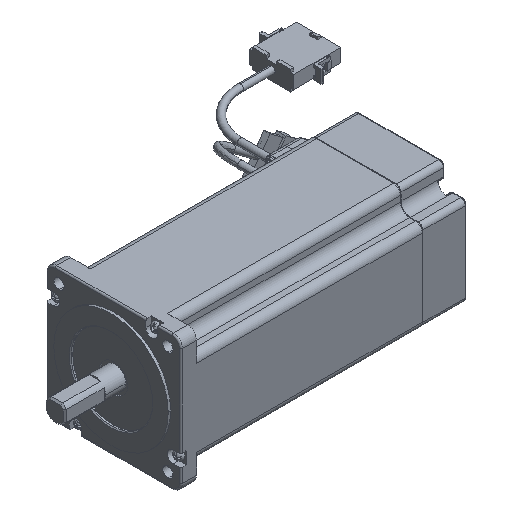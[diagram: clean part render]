
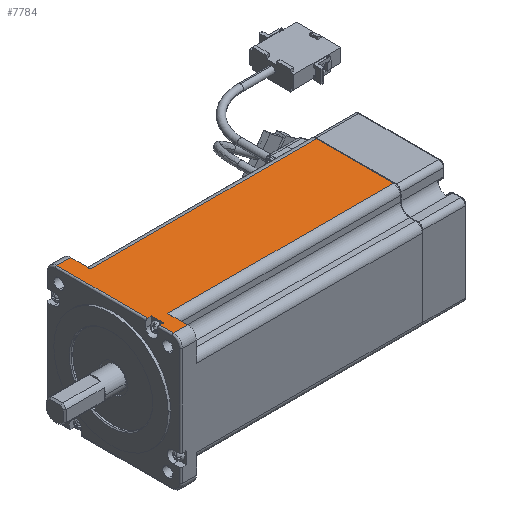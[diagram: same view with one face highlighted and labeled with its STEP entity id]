
A CAD part, isometric view. The second image highlights one B-rep face of the part: STEP entity #7784.
In plain terms, the highlighted planar face has unit normal (0, 0, 1) as drawn and (-1, 0, 0) by its records, which use the part's own axes.
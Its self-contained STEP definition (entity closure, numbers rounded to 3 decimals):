
#69 = LINE ( 'NONE', #27993, #11614 ) ;
#78 = AXIS2_PLACEMENT_3D ( 'NONE', #15506, #6850, #22740 ) ;
#183 = LINE ( 'NONE', #16358, #6346 ) ;
#808 = LINE ( 'NONE', #16118, #13771 ) ;
#896 = DIRECTION ( 'NONE',  ( 0., 0., -1. ) ) ;
#1081 = LINE ( 'NONE', #16926, #6525 ) ;
#1831 = ORIENTED_EDGE ( 'NONE', *, *, #26121, .T. ) ;
#2554 = VERTEX_POINT ( 'NONE', #3758 ) ;
#2610 = ORIENTED_EDGE ( 'NONE', *, *, #20468, .T. ) ;
#2799 = CARTESIAN_POINT ( 'NONE',  ( -119.958, 180.76, -10. ) ) ;
#2805 = ORIENTED_EDGE ( 'NONE', *, *, #18399, .T. ) ;
#2934 = CARTESIAN_POINT ( 'NONE',  ( -119.958, 171.76, -3.5 ) ) ;
#2962 = LINE ( 'NONE', #25599, #20463 ) ;
#3179 = DIRECTION ( 'NONE',  ( 0., 0., 1. ) ) ;
#3758 = CARTESIAN_POINT ( 'NONE',  ( -119.958, 118.86, -154. ) ) ;
#3932 = EDGE_LOOP ( 'NONE', ( #2610, #10384, #4021, #8180, #2805, #22646, #27176, #1831, #10189, #18285, #20952, #21492 ) ) ;
#4021 = ORIENTED_EDGE ( 'NONE', *, *, #14415, .T. ) ;
#4345 = EDGE_CURVE ( 'NONE', #5480, #2554, #18171, .T. ) ;
#4537 = VECTOR ( 'NONE', #23937, 1000. ) ;
#4547 = LINE ( 'NONE', #10401, #15981 ) ;
#5215 = FACE_OUTER_BOUND ( 'NONE', #3932, .T. ) ;
#5480 = VERTEX_POINT ( 'NONE', #23328 ) ;
#5955 = LINE ( 'NONE', #12677, #4537 ) ;
#6147 = VERTEX_POINT ( 'NONE', #10523 ) ;
#6346 = VECTOR ( 'NONE', #7294, 1000. ) ;
#6525 = VECTOR ( 'NONE', #28017, 1000. ) ;
#6850 = DIRECTION ( 'NONE',  ( -1., 0., 0. ) ) ;
#6869 = CARTESIAN_POINT ( 'NONE',  ( -119.958, 168.06, -10. ) ) ;
#7063 = VECTOR ( 'NONE', #21007, 1000. ) ;
#7268 = EDGE_CURVE ( 'NONE', #26665, #15412, #5955, .T. ) ;
#7294 = DIRECTION ( 'NONE',  ( 0., 1., 0. ) ) ;
#7362 = LINE ( 'NONE', #18648, #19448 ) ;
#7784 = ADVANCED_FACE ( 'NONE', ( #5215 ), #24486, .T. ) ;
#7952 = VERTEX_POINT ( 'NONE', #2799 ) ;
#8104 = DIRECTION ( 'NONE',  ( 0., 0., 1. ) ) ;
#8180 = ORIENTED_EDGE ( 'NONE', *, *, #4345, .T. ) ;
#8678 = VECTOR ( 'NONE', #15475, 1000. ) ;
#9458 = EDGE_CURVE ( 'NONE', #7952, #17337, #2962, .T. ) ;
#10189 = ORIENTED_EDGE ( 'NONE', *, *, #7268, .T. ) ;
#10384 = ORIENTED_EDGE ( 'NONE', *, *, #9458, .T. ) ;
#10401 = CARTESIAN_POINT ( 'NONE',  ( -119.958, 171.76, 0. ) ) ;
#10429 = EDGE_CURVE ( 'NONE', #14016, #10730, #1081, .T. ) ;
#10523 = CARTESIAN_POINT ( 'NONE',  ( -119.958, 106.16, -1. ) ) ;
#10730 = VERTEX_POINT ( 'NONE', #13627 ) ;
#10741 = CARTESIAN_POINT ( 'NONE',  ( -119.958, 164.16, -1. ) ) ;
#11184 = EDGE_CURVE ( 'NONE', #22969, #17541, #20789, .T. ) ;
#11424 = VECTOR ( 'NONE', #17009, 1000. ) ;
#11614 = VECTOR ( 'NONE', #3179, 1000. ) ;
#12677 = CARTESIAN_POINT ( 'NONE',  ( -119.958, 164.16, 0. ) ) ;
#13627 = CARTESIAN_POINT ( 'NONE',  ( -119.958, 106.16, -10. ) ) ;
#13771 = VECTOR ( 'NONE', #18406, 1000. ) ;
#14016 = VERTEX_POINT ( 'NONE', #17751 ) ;
#14396 = DIRECTION ( 'NONE',  ( 0., -1., 0. ) ) ;
#14415 = EDGE_CURVE ( 'NONE', #17337, #5480, #15282, .T. ) ;
#15282 = LINE ( 'NONE', #23733, #20610 ) ;
#15412 = VERTEX_POINT ( 'NONE', #24049 ) ;
#15475 = DIRECTION ( 'NONE',  ( 0., 1., 0. ) ) ;
#15506 = CARTESIAN_POINT ( 'NONE',  ( -119.958, 100.46, 0. ) ) ;
#15981 = VECTOR ( 'NONE', #8104, 1000. ) ;
#16118 = CARTESIAN_POINT ( 'NONE',  ( -119.958, 100.46, -1. ) ) ;
#16358 = CARTESIAN_POINT ( 'NONE',  ( -119.958, 100.46, -3.5 ) ) ;
#16917 = CARTESIAN_POINT ( 'NONE',  ( -119.958, 100.46, -154. ) ) ;
#16926 = CARTESIAN_POINT ( 'NONE',  ( -119.958, 100.46, -10. ) ) ;
#17009 = DIRECTION ( 'NONE',  ( 0., -1., 0. ) ) ;
#17337 = VERTEX_POINT ( 'NONE', #6869 ) ;
#17541 = VERTEX_POINT ( 'NONE', #19158 ) ;
#17751 = CARTESIAN_POINT ( 'NONE',  ( -119.958, 118.86, -10. ) ) ;
#17775 = CARTESIAN_POINT ( 'NONE',  ( -119.958, 100.46, -1. ) ) ;
#18171 = LINE ( 'NONE', #16917, #11424 ) ;
#18285 = ORIENTED_EDGE ( 'NONE', *, *, #19238, .T. ) ;
#18399 = EDGE_CURVE ( 'NONE', #2554, #14016, #25124, .T. ) ;
#18406 = DIRECTION ( 'NONE',  ( 0., 1., 0. ) ) ;
#18648 = CARTESIAN_POINT ( 'NONE',  ( -119.958, 180.76, 0. ) ) ;
#18718 = CARTESIAN_POINT ( 'NONE',  ( -119.958, 118.86, 0. ) ) ;
#19158 = CARTESIAN_POINT ( 'NONE',  ( -119.958, 180.76, -1. ) ) ;
#19238 = EDGE_CURVE ( 'NONE', #15412, #22511, #183, .T. ) ;
#19448 = VECTOR ( 'NONE', #23104, 1000. ) ;
#20463 = VECTOR ( 'NONE', #14396, 1000. ) ;
#20468 = EDGE_CURVE ( 'NONE', #17541, #7952, #7362, .T. ) ;
#20610 = VECTOR ( 'NONE', #896, 1000. ) ;
#20789 = LINE ( 'NONE', #17775, #8678 ) ;
#20952 = ORIENTED_EDGE ( 'NONE', *, *, #23645, .T. ) ;
#21007 = DIRECTION ( 'NONE',  ( 0., 0., 1. ) ) ;
#21403 = EDGE_CURVE ( 'NONE', #10730, #6147, #69, .T. ) ;
#21492 = ORIENTED_EDGE ( 'NONE', *, *, #11184, .T. ) ;
#22511 = VERTEX_POINT ( 'NONE', #2934 ) ;
#22646 = ORIENTED_EDGE ( 'NONE', *, *, #10429, .T. ) ;
#22740 = DIRECTION ( 'NONE',  ( 0., 0., 1. ) ) ;
#22969 = VERTEX_POINT ( 'NONE', #23693 ) ;
#23104 = DIRECTION ( 'NONE',  ( 0., 0., -1. ) ) ;
#23328 = CARTESIAN_POINT ( 'NONE',  ( -119.958, 168.06, -154. ) ) ;
#23645 = EDGE_CURVE ( 'NONE', #22511, #22969, #4547, .T. ) ;
#23693 = CARTESIAN_POINT ( 'NONE',  ( -119.958, 171.76, -1. ) ) ;
#23733 = CARTESIAN_POINT ( 'NONE',  ( -119.958, 168.06, 0. ) ) ;
#23937 = DIRECTION ( 'NONE',  ( 0., 0., -1. ) ) ;
#24049 = CARTESIAN_POINT ( 'NONE',  ( -119.958, 164.16, -3.5 ) ) ;
#24486 = PLANE ( 'NONE',  #78 ) ;
#25124 = LINE ( 'NONE', #18718, #7063 ) ;
#25599 = CARTESIAN_POINT ( 'NONE',  ( -119.958, 100.46, -10. ) ) ;
#26121 = EDGE_CURVE ( 'NONE', #6147, #26665, #808, .T. ) ;
#26665 = VERTEX_POINT ( 'NONE', #10741 ) ;
#27176 = ORIENTED_EDGE ( 'NONE', *, *, #21403, .T. ) ;
#27993 = CARTESIAN_POINT ( 'NONE',  ( -119.958, 106.16, 0. ) ) ;
#28017 = DIRECTION ( 'NONE',  ( 0., -1., 0. ) ) ;
